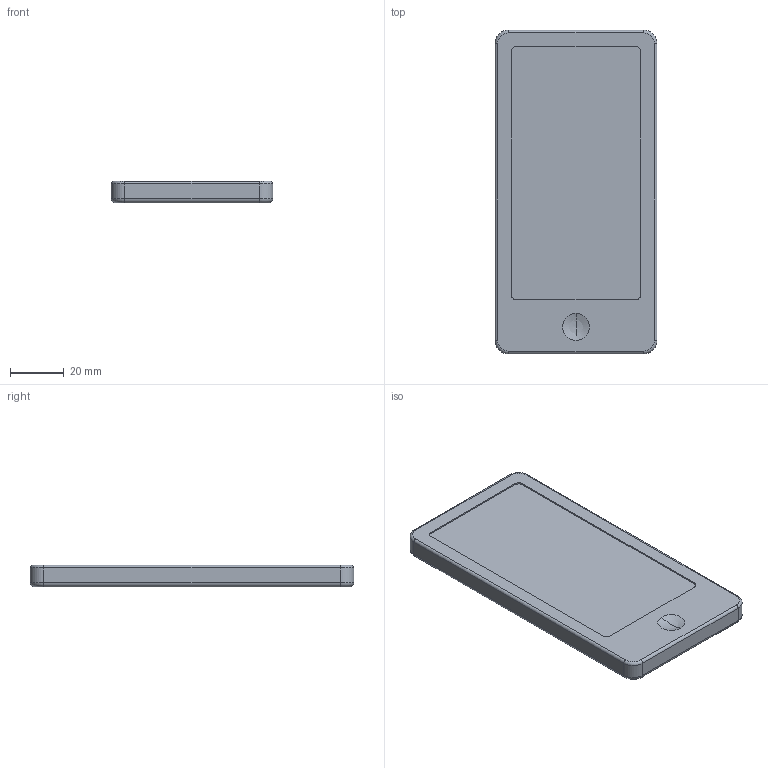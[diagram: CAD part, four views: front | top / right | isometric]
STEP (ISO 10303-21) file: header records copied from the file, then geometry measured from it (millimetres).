
FILE_DESCRIPTION(('CoCreate Modeling STEP Export'),'2;1');
FILE_NAME('Vertiefung.stp','2009-10-25T15:31:50',(''),(''),'CoCreate Modeling STEP processor for AP214 (Solid Model)','CoCreate Modeling 16.00 13-May-2008 (C) Parametric Technology GmbH','');
FILE_SCHEMA(('AUTOMOTIVE_DESIGN { 1 0 10303 214 1 1 1 1 }'));
Length unit declared in the file: millimetre
Products named in the file (1): T1
Bounding box: 60 x 120 x 8 mm (x, y, z)
Volume: 54890.5 mm3; surface area: 16933.3 mm2
Topology: 1 solids, 1 shells, 37 faces, 87 edges, 52 vertices
Faces by surface type: cylinder 16, plane 11, torus 8, sphere 2
Entity records: 1054 total; most frequent: DIRECTION 198, CARTESIAN_POINT 171, ORIENTED_EDGE 170, EDGE_CURVE 85, AXIS2_PLACEMENT_3D 79, VERTEX_POINT 52, CIRCLE 42, VECTOR 40
